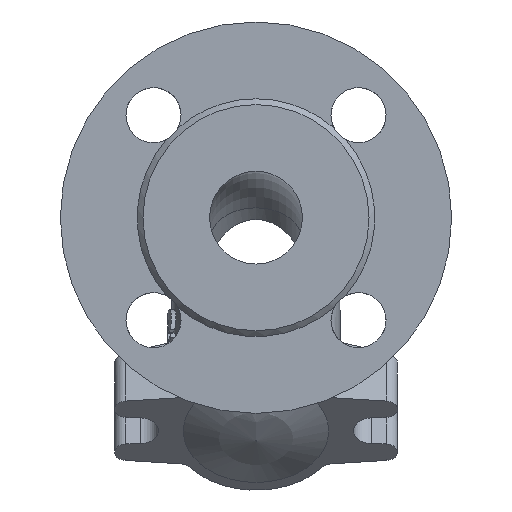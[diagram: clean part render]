
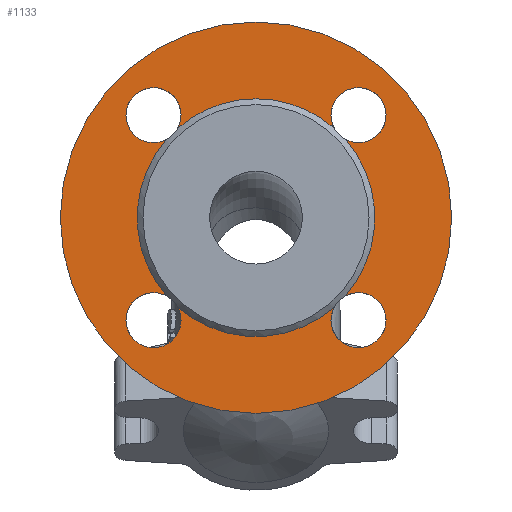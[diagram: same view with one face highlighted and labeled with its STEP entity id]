
A CAD part, front view. The second image highlights one B-rep face of the part: STEP entity #1133.
In plain terms, the highlighted planar face has unit normal (0, -1, 0).
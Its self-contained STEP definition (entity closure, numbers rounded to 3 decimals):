
#1133=ADVANCED_FACE('',(#2466,#2468),#2470,.T.);
#2466=FACE_BOUND('',#2467,.T.);
#2467=EDGE_LOOP('',(#3247));
#2468=FACE_BOUND('',#2469,.T.);
#2469=EDGE_LOOP('',(#3248,#3249,#3250,#3251,#3252,#3253,#3254,#3255,#3256,#3257,
#3258,#3259,#3260));
#2470=PLANE('',#2471);
#2471=AXIS2_PLACEMENT_3D('',#2472,#2473,#2474);
#2472=CARTESIAN_POINT('',(0.,-88.,0.));
#2473=DIRECTION('',(0.,-1.,0.));
#2474=DIRECTION('',(0.,0.,1.));
#3247=ORIENTED_EDGE('',*,*,#3605,.F.);
#3248=ORIENTED_EDGE('',*,*,#3608,.T.);
#3249=ORIENTED_EDGE('',*,*,#3624,.T.);
#3250=ORIENTED_EDGE('',*,*,#3609,.T.);
#3251=ORIENTED_EDGE('',*,*,#3611,.T.);
#3252=ORIENTED_EDGE('',*,*,#3625,.T.);
#3253=ORIENTED_EDGE('',*,*,#3613,.T.);
#3254=ORIENTED_EDGE('',*,*,#3612,.T.);
#3255=ORIENTED_EDGE('',*,*,#3626,.T.);
#3256=ORIENTED_EDGE('',*,*,#3627,.T.);
#3257=ORIENTED_EDGE('',*,*,#3616,.T.);
#3258=ORIENTED_EDGE('',*,*,#3615,.T.);
#3259=ORIENTED_EDGE('',*,*,#3628,.T.);
#3260=ORIENTED_EDGE('',*,*,#3606,.T.);
#3605=EDGE_CURVE('',#4157,#4157,#4158,.T.);
#3606=EDGE_CURVE('',#4159,#4160,#4161,.T.);
#3608=EDGE_CURVE('',#4160,#4162,#4164,.T.);
#3609=EDGE_CURVE('',#4165,#4166,#4167,.T.);
#3611=EDGE_CURVE('',#4166,#4168,#4170,.T.);
#3612=EDGE_CURVE('',#4171,#4172,#4173,.T.);
#3613=EDGE_CURVE('',#4174,#4171,#4175,.T.);
#3615=EDGE_CURVE('',#4177,#4178,#4179,.T.);
#3616=EDGE_CURVE('',#4180,#4177,#4181,.T.);
#3624=EDGE_CURVE('',#4162,#4165,#4191,.T.);
#3625=EDGE_CURVE('',#4168,#4174,#4192,.T.);
#3626=EDGE_CURVE('',#4172,#4193,#4194,.T.);
#3627=EDGE_CURVE('',#4193,#4180,#4195,.T.);
#3628=EDGE_CURVE('',#4178,#4159,#4196,.T.);
#4157=VERTEX_POINT('',#8431);
#4158=CIRCLE('',#8432,67.5);
#4159=VERTEX_POINT('',#8436);
#4160=VERTEX_POINT('',#8437);
#4161=CIRCLE('',#8438,9.5);
#4162=VERTEX_POINT('',#8442);
#4164=CIRCLE('',#8502,9.5);
#4165=VERTEX_POINT('',#8506);
#4166=VERTEX_POINT('',#8507);
#4167=CIRCLE('',#8508,9.5);
#4168=VERTEX_POINT('',#8512);
#4170=CIRCLE('',#8572,9.5);
#4171=VERTEX_POINT('',#8576);
#4172=VERTEX_POINT('',#8577);
#4173=CIRCLE('',#8578,9.5);
#4174=VERTEX_POINT('',#8582);
#4175=CIRCLE('',#8583,9.5);
#4177=VERTEX_POINT('',#8646);
#4178=VERTEX_POINT('',#8647);
#4179=CIRCLE('',#8648,9.5);
#4180=VERTEX_POINT('',#8652);
#4181=CIRCLE('',#8653,9.5);
#4191=CIRCLE('',#8742,41.);
#4192=CIRCLE('',#8746,41.);
#4193=VERTEX_POINT('',#8750);
#4194=CIRCLE('',#8751,41.);
#4195=CIRCLE('',#8755,41.);
#4196=CIRCLE('',#8759,41.);
#8431=CARTESIAN_POINT('',(0.,-88.,67.5));
#8432=AXIS2_PLACEMENT_3D('',#8433,#8434,#8435);
#8433=CARTESIAN_POINT('',(0.,-88.,0.));
#8434=DIRECTION('',(0.,1.,0.));
#8435=DIRECTION('',(0.,0.,1.));
#8436=CARTESIAN_POINT('',(30.872,-88.,-26.98));
#8437=CARTESIAN_POINT('',(35.355,-88.,-25.855));
#8438=AXIS2_PLACEMENT_3D('',#8439,#8440,#8441);
#8439=CARTESIAN_POINT('',(35.355,-88.,-35.355));
#8440=DIRECTION('',(0.,1.,0.));
#8441=DIRECTION('',(-0.472,0.,0.882));
#8442=CARTESIAN_POINT('',(26.98,-88.,-30.872));
#8502=AXIS2_PLACEMENT_3D('',#8503,#8504,#8505);
#8503=CARTESIAN_POINT('',(35.355,-88.,-35.355));
#8504=DIRECTION('',(0.,1.,0.));
#8505=DIRECTION('',(0.,0.,1.));
#8506=CARTESIAN_POINT('',(-26.98,-88.,-30.872));
#8507=CARTESIAN_POINT('',(-25.855,-88.,-35.355));
#8508=AXIS2_PLACEMENT_3D('',#8509,#8510,#8511);
#8509=CARTESIAN_POINT('',(-35.355,-88.,-35.355));
#8510=DIRECTION('',(0.,1.,0.));
#8511=DIRECTION('',(0.882,0.,0.472));
#8512=CARTESIAN_POINT('',(-30.872,-88.,-26.98));
#8572=AXIS2_PLACEMENT_3D('',#8573,#8574,#8575);
#8573=CARTESIAN_POINT('',(-35.355,-88.,-35.355));
#8574=DIRECTION('',(0.,1.,0.));
#8575=DIRECTION('',(1.,0.,0.));
#8576=CARTESIAN_POINT('',(-35.355,-88.,25.855));
#8577=CARTESIAN_POINT('',(-26.98,-88.,30.872));
#8578=AXIS2_PLACEMENT_3D('',#8579,#8580,#8581);
#8579=CARTESIAN_POINT('',(-35.355,-88.,35.355));
#8580=DIRECTION('',(0.,1.,0.));
#8581=DIRECTION('',(0.,0.,-1.));
#8582=CARTESIAN_POINT('',(-30.872,-88.,26.98));
#8583=AXIS2_PLACEMENT_3D('',#8584,#8585,#8586);
#8584=CARTESIAN_POINT('',(-35.355,-88.,35.355));
#8585=DIRECTION('',(0.,1.,0.));
#8586=DIRECTION('',(0.472,0.,-0.882));
#8646=CARTESIAN_POINT('',(25.855,-88.,35.355));
#8647=CARTESIAN_POINT('',(30.872,-88.,26.98));
#8648=AXIS2_PLACEMENT_3D('',#8649,#8650,#8651);
#8649=CARTESIAN_POINT('',(35.355,-88.,35.355));
#8650=DIRECTION('',(0.,1.,0.));
#8651=DIRECTION('',(-1.,0.,0.));
#8652=CARTESIAN_POINT('',(26.98,-88.,30.872));
#8653=AXIS2_PLACEMENT_3D('',#8654,#8655,#8656);
#8654=CARTESIAN_POINT('',(35.355,-88.,35.355));
#8655=DIRECTION('',(0.,1.,0.));
#8656=DIRECTION('',(-0.882,0.,-0.472));
#8742=AXIS2_PLACEMENT_3D('',#8743,#8744,#8745);
#8743=CARTESIAN_POINT('',(0.,-88.,0.));
#8744=DIRECTION('',(0.,1.,0.));
#8745=DIRECTION('',(0.658,0.,-0.753));
#8746=AXIS2_PLACEMENT_3D('',#8747,#8748,#8749);
#8747=CARTESIAN_POINT('',(0.,-88.,0.));
#8748=DIRECTION('',(0.,1.,0.));
#8749=DIRECTION('',(-0.753,0.,-0.658));
#8750=CARTESIAN_POINT('',(0.,-88.,41.));
#8751=AXIS2_PLACEMENT_3D('',#8752,#8753,#8754);
#8752=CARTESIAN_POINT('',(0.,-88.,0.));
#8753=DIRECTION('',(0.,1.,0.));
#8754=DIRECTION('',(-0.658,0.,0.753));
#8755=AXIS2_PLACEMENT_3D('',#8756,#8757,#8758);
#8756=CARTESIAN_POINT('',(0.,-88.,0.));
#8757=DIRECTION('',(0.,1.,0.));
#8758=DIRECTION('',(0.,0.,1.));
#8759=AXIS2_PLACEMENT_3D('',#8760,#8761,#8762);
#8760=CARTESIAN_POINT('',(0.,-88.,0.));
#8761=DIRECTION('',(0.,1.,0.));
#8762=DIRECTION('',(0.753,0.,0.658));
